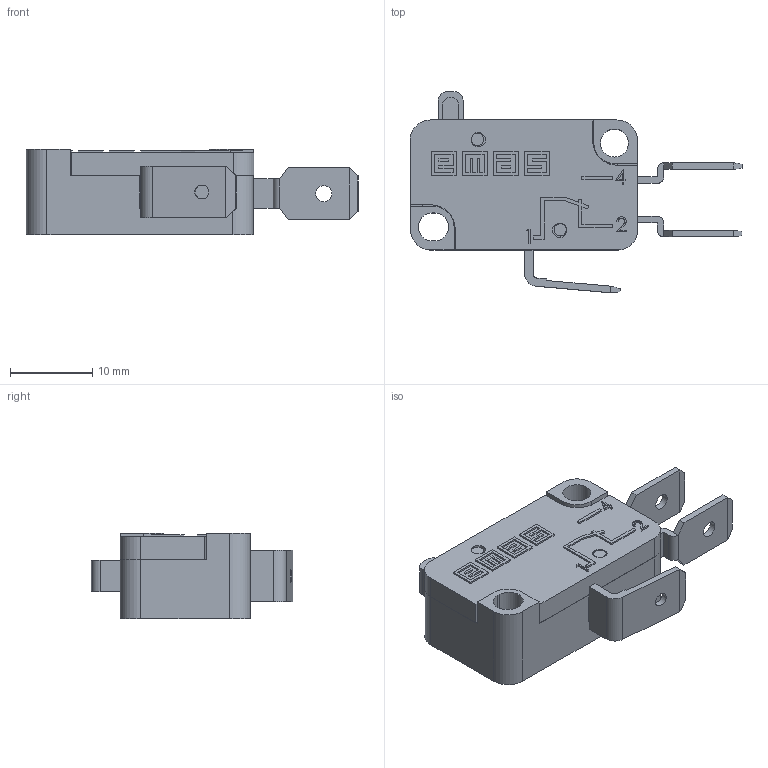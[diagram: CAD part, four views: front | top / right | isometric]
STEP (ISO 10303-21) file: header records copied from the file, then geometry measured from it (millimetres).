
FILE_DESCRIPTION((''),'2; 1');
FILE_NAME('','2026-03-27T16:22:06',(''),(''),'CST STEP Exporter V1.0','Unknown','');
FILE_SCHEMA(('CONFIG_CONTROL_DESIGN'));
Length unit declared in the file: metre
Assembly tree (7 placements, depth 2):
  (unnamed)
    (unnamed)
    (unnamed)
    (unnamed)
    (unnamed)
    (unnamed)
    (unnamed)
    (unnamed)
Bounding box: 40.35 x 24.49 x 10.4 mm (x, y, z)
Surface area: 6707.7 mm2 (no closed solid volume)
Topology: 0 solids, 7 shells, 284 faces, 1019 edges, 755 vertices
Faces by surface type: plane 243, cylinder 35, extrusion 6
Full cylindrical faces by diameter (mm): 1.5 x2, 1.7 x1, 1.75 x2, 1.95 x2, 3.4 x1
Entity records: 13262 total; most frequent: CARTESIAN_POINT 2224, ORIENTED_EDGE 1698, DIRECTION 1681, EDGE_CURVE 1008, VECTOR 851, LINE 845, VERTEX_POINT 752, AXIS2_PLACEMENT_3D 415
